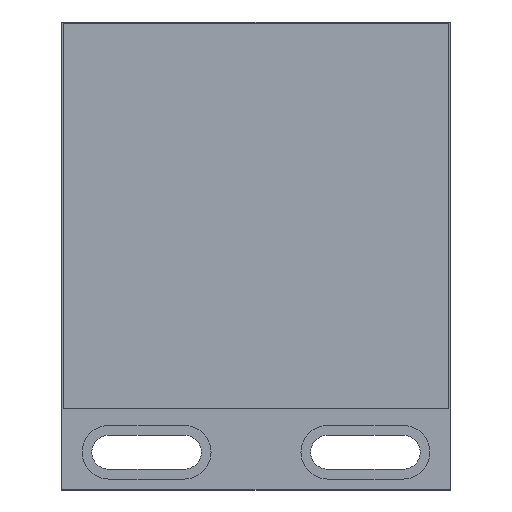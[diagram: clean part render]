
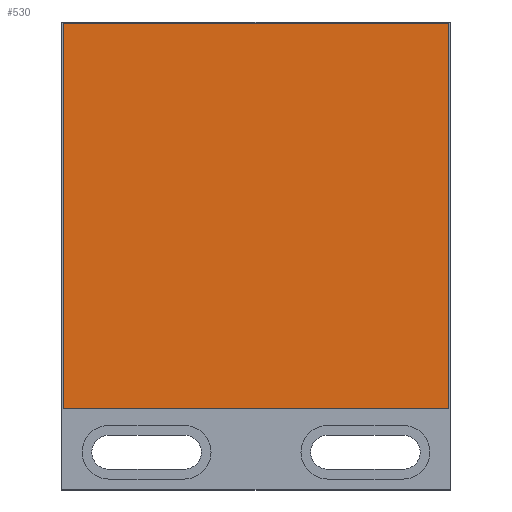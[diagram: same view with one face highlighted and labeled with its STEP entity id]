
A CAD part, top view. The second image highlights one B-rep face of the part: STEP entity #530.
In plain terms, the highlighted planar face has unit normal (0, 0, 1).
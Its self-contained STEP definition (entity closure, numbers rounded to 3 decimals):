
#36=PLANE('',#577);
#65=FACE_OUTER_BOUND('',#96,.T.);
#96=EDGE_LOOP('',(#452,#453,#454,#455));
#142=LINE('',#838,#198);
#145=LINE('',#844,#201);
#148=LINE('',#850,#204);
#151=LINE('',#854,#207);
#198=VECTOR('',#690,10.);
#201=VECTOR('',#695,10.);
#204=VECTOR('',#700,10.);
#207=VECTOR('',#705,10.);
#270=VERTEX_POINT('',#835);
#271=VERTEX_POINT('',#837);
#273=VERTEX_POINT('',#843);
#275=VERTEX_POINT('',#849);
#334=EDGE_CURVE('',#271,#270,#142,.T.);
#337=EDGE_CURVE('',#273,#271,#145,.T.);
#340=EDGE_CURVE('',#275,#273,#148,.T.);
#343=EDGE_CURVE('',#270,#275,#151,.T.);
#452=ORIENTED_EDGE('',*,*,#343,.T.);
#453=ORIENTED_EDGE('',*,*,#340,.T.);
#454=ORIENTED_EDGE('',*,*,#337,.T.);
#455=ORIENTED_EDGE('',*,*,#334,.T.);
#530=ADVANCED_FACE('',(#65),#36,.T.);
#577=AXIS2_PLACEMENT_3D('',#855,#706,#707);
#690=DIRECTION('',(0.,1.,0.));
#695=DIRECTION('',(1.,0.,0.));
#700=DIRECTION('',(0.,-1.,0.));
#705=DIRECTION('',(-1.,0.,0.));
#706=DIRECTION('center_axis',(0.,0.,1.));
#707=DIRECTION('ref_axis',(1.,0.,0.));
#835=CARTESIAN_POINT('',(25.5,30.75,8.5));
#837=CARTESIAN_POINT('',(25.5,-20.25,8.5));
#838=CARTESIAN_POINT('',(25.5,30.75,8.5));
#843=CARTESIAN_POINT('',(-25.5,-20.25,8.5));
#844=CARTESIAN_POINT('',(25.5,-20.25,8.5));
#849=CARTESIAN_POINT('',(-25.5,30.75,8.5));
#850=CARTESIAN_POINT('',(-25.5,-20.25,8.5));
#854=CARTESIAN_POINT('',(-25.5,30.75,8.5));
#855=CARTESIAN_POINT('Origin',(0.,5.25,8.5));
